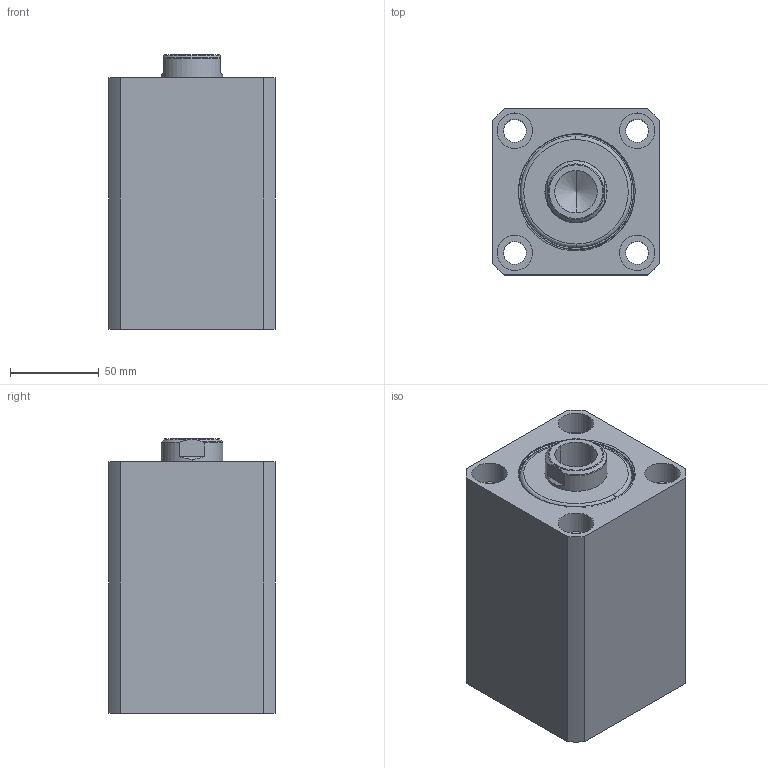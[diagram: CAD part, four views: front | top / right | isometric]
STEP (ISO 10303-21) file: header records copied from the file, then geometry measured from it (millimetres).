
FILE_DESCRIPTION (( 'STEP AP214' ), '1' );
FILE_NAME ('chtb-sd63x75n_asm.STEP', '2018-05-09T01:51:48', ( 'Windows' ), ( 'Microsoft' ), 'SwSTEP 2.0', 'SolidWorks 2015', '' );
FILE_SCHEMA (( 'AUTOMOTIVE_DESIGN' ));
Length unit declared in the file: millimetre
Products named in the file (4): CHTB63X75NHSG; CHTB63X75NBT; CHTB-63QG; chtb-sd63x75n_asm
Assembly tree (3 placements, depth 2):
  chtb-sd63x75n_asm
    CHTB-63QG
    CHTB63X75NBT
    CHTB63X75NHSG
Bounding box: 94 x 94 x 155 mm (x, y, z)
Volume: 985084.7 mm3; surface area: 165323.5 mm2
Topology: 3 solids, 3 shells, 165 faces, 465 edges, 318 vertices
Faces by surface type: cylinder 101, plane 33, bspline 12, cone 12, torus 7
Entity records: 17638 total; most frequent: CARTESIAN_POINT 13505, ORIENTED_EDGE 918, DIRECTION 719, EDGE_CURVE 459, VERTEX_POINT 318, AXIS2_PLACEMENT_3D 291, EDGE_LOOP 197, ADVANCED_FACE 165
